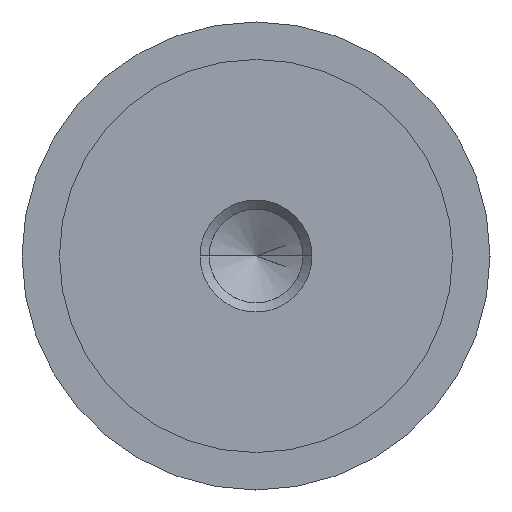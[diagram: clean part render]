
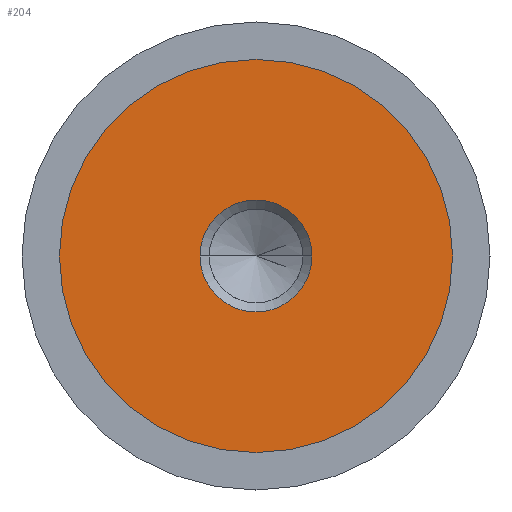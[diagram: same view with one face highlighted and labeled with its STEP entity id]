
A CAD part, left-side view. The second image highlights one B-rep face of the part: STEP entity #204.
In plain terms, the highlighted planar face has unit normal (-1, 0, 0).
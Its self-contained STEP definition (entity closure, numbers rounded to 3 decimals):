
#7 = AXIS2_PLACEMENT_3D ( 'NONE', #415, #775, #600 ) ;
#48 = EDGE_CURVE ( 'NONE', #742, #564, #203, .T. ) ;
#51 = AXIS2_PLACEMENT_3D ( 'NONE', #132, #202, #616 ) ;
#52 = CIRCLE ( 'NONE', #239, 2.99 ) ;
#96 = DIRECTION ( 'NONE',  ( -1., 0., 0. ) ) ;
#132 = CARTESIAN_POINT ( 'NONE',  ( -7.49, 10.5, 0. ) ) ;
#151 = DIRECTION ( 'NONE',  ( 0., 0., 1. ) ) ;
#153 = DIRECTION ( 'NONE',  ( 0., 0., -1. ) ) ;
#169 = EDGE_LOOP ( 'NONE', ( #339, #526 ) ) ;
#195 = FACE_BOUND ( 'NONE', #377, .T. ) ;
#202 = DIRECTION ( 'NONE',  ( 1., 0., 0. ) ) ;
#203 = CIRCLE ( 'NONE', #488, 10.5 ) ;
#204 = ADVANCED_FACE ( 'NONE', ( #195, #442 ), #680, .F. ) ;
#239 = AXIS2_PLACEMENT_3D ( 'NONE', #651, #704, #153 ) ;
#247 = ORIENTED_EDGE ( 'NONE', *, *, #444, .T. ) ;
#256 = CARTESIAN_POINT ( 'NONE',  ( -7.49, 0., -10.5 ) ) ;
#260 = VERTEX_POINT ( 'NONE', #627 ) ;
#339 = ORIENTED_EDGE ( 'NONE', *, *, #730, .T. ) ;
#377 = EDGE_LOOP ( 'NONE', ( #706, #247 ) ) ;
#415 = CARTESIAN_POINT ( 'NONE',  ( -7.49, 0., 0. ) ) ;
#426 = CARTESIAN_POINT ( 'NONE',  ( -7.49, -2.99, 0. ) ) ;
#442 = FACE_OUTER_BOUND ( 'NONE', #169, .T. ) ;
#444 = EDGE_CURVE ( 'NONE', #260, #466, #671, .T. ) ;
#466 = VERTEX_POINT ( 'NONE', #426 ) ;
#488 = AXIS2_PLACEMENT_3D ( 'NONE', #515, #96, #151 ) ;
#515 = CARTESIAN_POINT ( 'NONE',  ( -7.49, 0., 0. ) ) ;
#526 = ORIENTED_EDGE ( 'NONE', *, *, #48, .T. ) ;
#543 = CARTESIAN_POINT ( 'NONE',  ( -7.49, 0., 10.5 ) ) ;
#564 = VERTEX_POINT ( 'NONE', #543 ) ;
#579 = CARTESIAN_POINT ( 'NONE',  ( -7.49, 0., 0. ) ) ;
#587 = DIRECTION ( 'NONE',  ( 0., 0., 1. ) ) ;
#600 = DIRECTION ( 'NONE',  ( 0., 0., -1. ) ) ;
#616 = DIRECTION ( 'NONE',  ( 0., 0., -1. ) ) ;
#623 = AXIS2_PLACEMENT_3D ( 'NONE', #579, #647, #587 ) ;
#627 = CARTESIAN_POINT ( 'NONE',  ( -7.49, 2.99, 0. ) ) ;
#647 = DIRECTION ( 'NONE',  ( -1., 0., 0. ) ) ;
#651 = CARTESIAN_POINT ( 'NONE',  ( -7.49, 0., 0. ) ) ;
#671 = CIRCLE ( 'NONE', #7, 2.99 ) ;
#677 = EDGE_CURVE ( 'NONE', #466, #260, #52, .T. ) ;
#680 = PLANE ( 'NONE',  #51 ) ;
#704 = DIRECTION ( 'NONE',  ( 1., 0., 0. ) ) ;
#706 = ORIENTED_EDGE ( 'NONE', *, *, #677, .T. ) ;
#730 = EDGE_CURVE ( 'NONE', #564, #742, #759, .T. ) ;
#742 = VERTEX_POINT ( 'NONE', #256 ) ;
#759 = CIRCLE ( 'NONE', #623, 10.5 ) ;
#775 = DIRECTION ( 'NONE',  ( 1., 0., 0. ) ) ;
